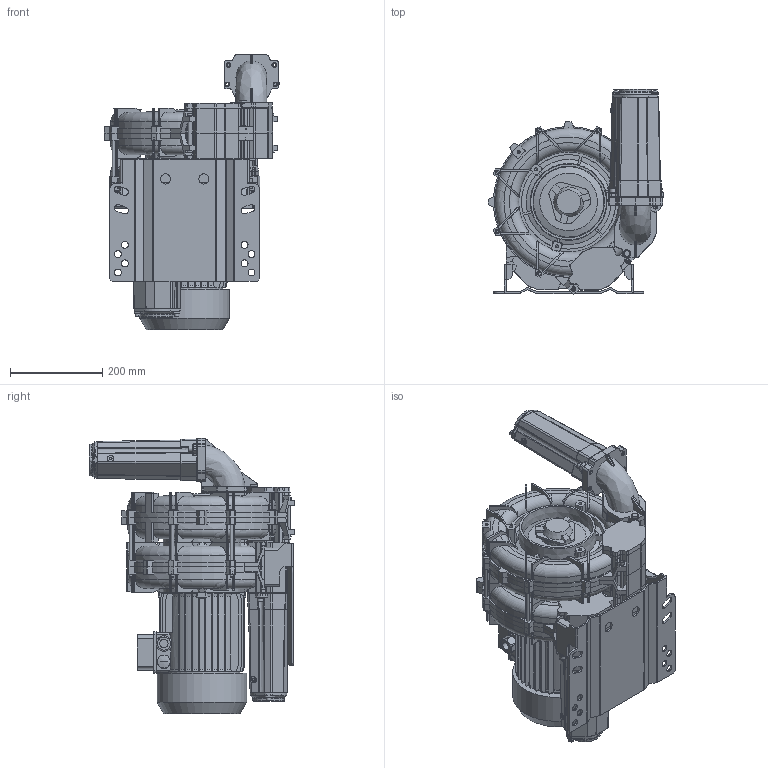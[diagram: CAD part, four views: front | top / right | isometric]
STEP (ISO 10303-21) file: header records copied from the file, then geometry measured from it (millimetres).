
FILE_DESCRIPTION (( 'STEP AP203' ), '1' );
FILE_NAME ('STP-L_e_05_TD_MOR_IE3WR_100_3.0kW-3_25-00.step', '2025-04-30T09:50:18', ( '' ), ( '' ), 'SwSTEP 2.0', 'SolidWorks 2024', '' );
FILE_SCHEMA (( 'CONFIG_CONTROL_DESIGN' ));
Products named in the file (1): STP-L_e_05_TD_MOR_IE3WR_100_3.0kW-3_25-00
Bounding box: 380.8 x 445.99 x 597.3 mm (x, y, z)
Volume: 24736920.6 mm3; surface area: 2306804.9 mm2
Topology: 93 solids, 93 shells, 4578 faces, 12275 edges, 7900 vertices
Faces by surface type: plane 2286, cylinder 1260, cone 509, bspline 269, torus 253, sphere 1
Full cylindrical faces by diameter (mm): 4 x8, 4.917 x11, 5 x12, 6 x19, 6.4 x19, 6.8 x7, 7.5 x4, 8 x26, 8.4 x6, 8.5 x8, 8.566 x2, 8.8 x2, 9 x1, 9.728 x2, 9.98 x2, 10 x45, 12 x2, 12.02 x2, 13 x10, 14 x2, 15 x8, 15.842 x1, 15.965 x1, 16 x4, 18 x2, 20 x1, 21.4 x1, 22 x2, 24 x4, 25 x3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
Entity records: 151365 total; most frequent: CARTESIAN_POINT 41726, ORIENTED_EDGE 23096, DIRECTION 22000, EDGE_CURVE 11548, AXIS2_PLACEMENT_3D 7895, VERTEX_POINT 7734, VECTOR 6210, LINE 6210
